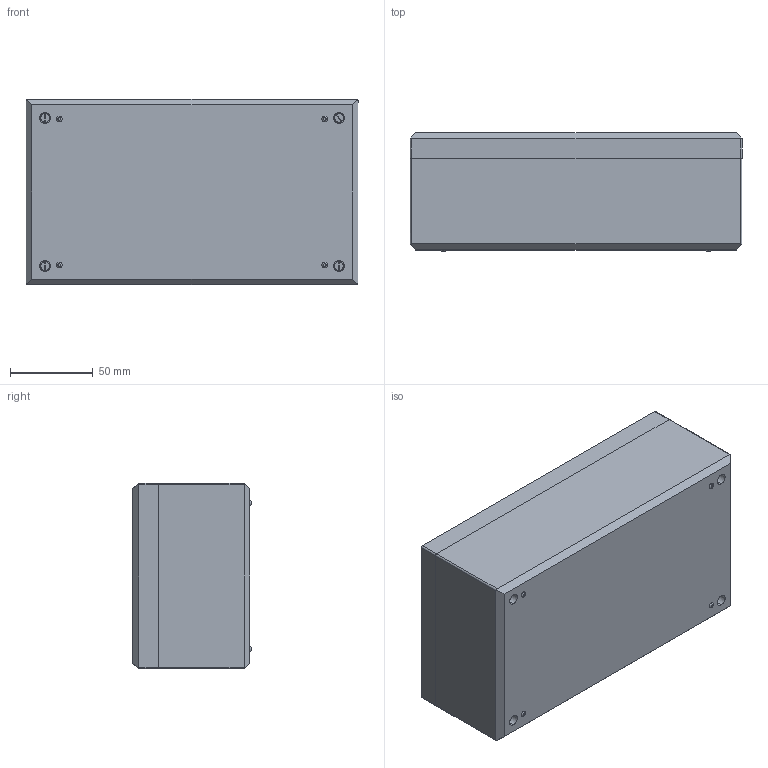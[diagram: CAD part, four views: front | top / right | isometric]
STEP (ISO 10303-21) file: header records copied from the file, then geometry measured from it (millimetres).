
FILE_DESCRIPTION (( 'STEP AP214' ), '1' );
FILE_NAME ('Conjunt PP60C.STEP', '2016-10-09T13:34:54', ( 'aaa' ), ( '' ), 'SwSTEP 2.0', 'SolidWorks 2013', '' );
FILE_SCHEMA (( 'AUTOMOTIVE_DESIGN' ));
Length unit declared in the file: millimetre
Products named in the file (6): Conjunt PP60C; Fijacion tornillo PP60C; Cargol 2,1x6,5 PP60C; Cargol M 3x8 PP60C; Tapa PP60C; Cuerpo PP60C
Assembly tree (14 placements, depth 2):
  Conjunt PP60C
    Cuerpo PP60C
    Tapa PP60C
    Cargol M 3x8 PP60C  x4
    Cargol 2,1x6,5 PP60C  x4
    Fijacion tornillo PP60C  x4
Bounding box: 200 x 71.25 x 112 mm (x, y, z)
Volume: 294272.7 mm3; surface area: 190017.4 mm2
Topology: 14 solids, 14 shells, 1838 faces, 3902 edges, 2120 vertices
Faces by surface type: cone 1376, plane 264, cylinder 182, torus 16
Entity records: 19174 total; most frequent: DIRECTION 3566, CARTESIAN_POINT 3219, ORIENTED_EDGE 3072, EDGE_CURVE 1536, AXIS2_PLACEMENT_3D 1360, VERTEX_POINT 893, LINE 846, VECTOR 846
